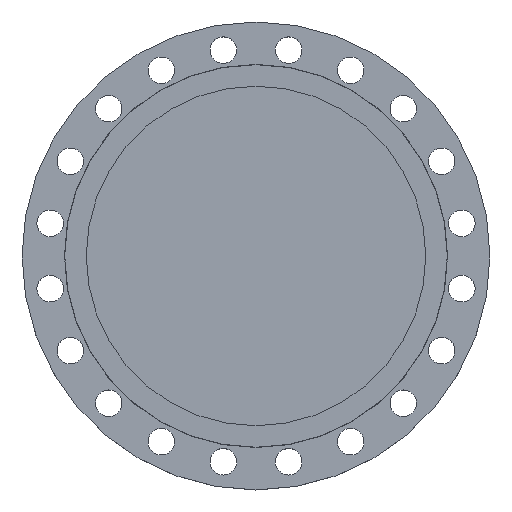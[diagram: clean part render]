
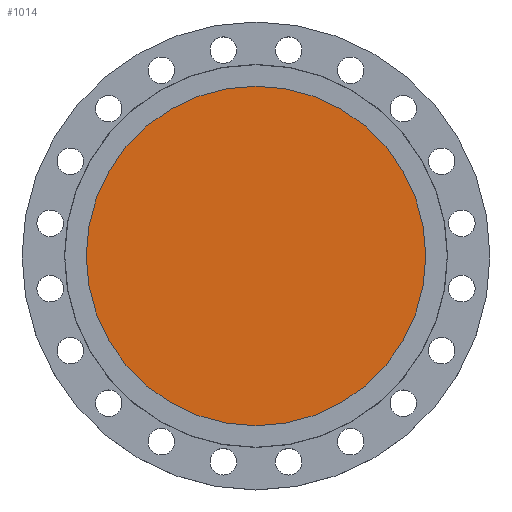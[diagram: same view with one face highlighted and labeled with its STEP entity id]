
A CAD part, top view. The second image highlights one B-rep face of the part: STEP entity #1014.
In plain terms, the highlighted planar face has unit normal (0, 0, 1).
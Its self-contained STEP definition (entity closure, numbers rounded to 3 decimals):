
#70 = DIRECTION ( 'NONE',  ( 0., 0., 1. ) ) ;
#91 = CARTESIAN_POINT ( 'NONE',  ( 248.5, 0., -5.5 ) ) ;
#128 = VERTEX_POINT ( 'NONE', #91 ) ;
#226 = FACE_OUTER_BOUND ( 'NONE', #854, .T. ) ;
#286 = CIRCLE ( 'NONE', #1025, 248.5 ) ;
#287 = ORIENTED_EDGE ( 'NONE', *, *, #1037, .F. ) ;
#346 = DIRECTION ( 'NONE',  ( 0., 0., -1. ) ) ;
#516 = DIRECTION ( 'NONE',  ( -1., 0., 0. ) ) ;
#690 = DIRECTION ( 'NONE',  ( 1., 0., 0. ) ) ;
#782 = AXIS2_PLACEMENT_3D ( 'NONE', #1672, #346, #1061 ) ;
#854 = EDGE_LOOP ( 'NONE', ( #287, #964 ) ) ;
#866 = PLANE ( 'NONE',  #1013 ) ;
#964 = ORIENTED_EDGE ( 'NONE', *, *, #1040, .F. ) ;
#1013 = AXIS2_PLACEMENT_3D ( 'NONE', #1442, #70, #690 ) ;
#1014 = ADVANCED_FACE ( 'NONE', ( #226 ), #866, .T. ) ;
#1025 = AXIS2_PLACEMENT_3D ( 'NONE', #1338, #1756, #516 ) ;
#1027 = CIRCLE ( 'NONE', #782, 248.5 ) ;
#1037 = EDGE_CURVE ( 'NONE', #1038, #128, #286, .T. ) ;
#1038 = VERTEX_POINT ( 'NONE', #1200 ) ;
#1040 = EDGE_CURVE ( 'NONE', #128, #1038, #1027, .T. ) ;
#1061 = DIRECTION ( 'NONE',  ( -1., 0., 0. ) ) ;
#1200 = CARTESIAN_POINT ( 'NONE',  ( -248.5, 0., -5.5 ) ) ;
#1338 = CARTESIAN_POINT ( 'NONE',  ( 0., 0., -5.5 ) ) ;
#1442 = CARTESIAN_POINT ( 'NONE',  ( 0., 0., -5.5 ) ) ;
#1672 = CARTESIAN_POINT ( 'NONE',  ( 0., 0., -5.5 ) ) ;
#1756 = DIRECTION ( 'NONE',  ( 0., 0., -1. ) ) ;
